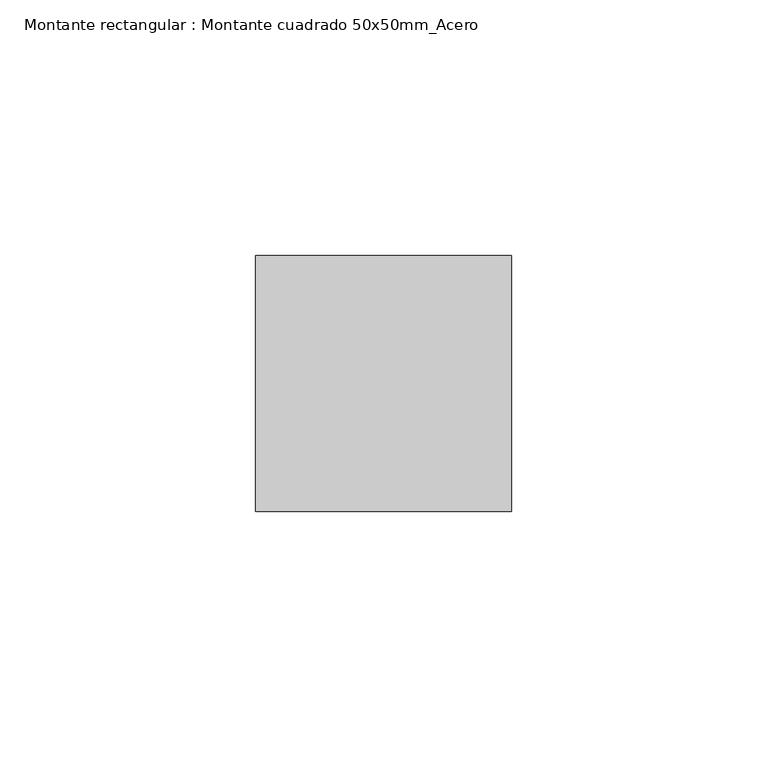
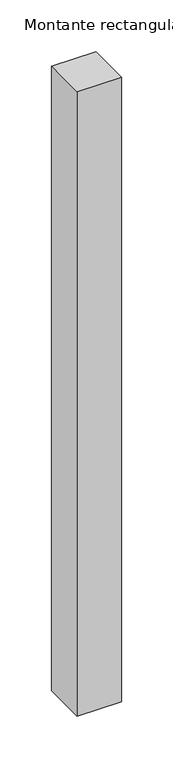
"""IFC4 building model written with IfcOpenShell, lengths in millimetres: member geometry, Montante rectangular : Montante cuadrado 50x50mm_Acero."""

from ifc_helpers import new_model, si_unit, frame, origin, place, context, project, spatial, polyline, outline, extrude, source, transform, mapped, element, save


def montante_rectangular_montante_cuadrado_50x50mm_acero_9b62e82a(model_context):
    return source(origin(), model_context, "Body", "SweptSolid", [
        extrude(outline(polyline([(0.0, 0.0), (0.0, -50.0), (-50.0, -50.0), (-50.0, 0.0), (0.0, 0.0)])), frame((0.0, 0.0, -740.0), z_axis=(0.0, 0.0, 1.0), x_axis=(1.0, 0.0, 0.0)), (0.0, 0.0, 1.0), 740.0),
    ])


if __name__ == "__main__":
    model = new_model("IFC4")
    model_context = context("Model", 3, world=origin())
    ifc_project = project(units=[si_unit("LENGTHUNIT", "METRE", prefix="MILLI")], contexts=[model_context])
    site = spatial("IfcSite", under=ifc_project)
    building = spatial("IfcBuilding", under=site)
    placement = place(None, origin())
    montante_rectangular_montante_cuadrado_50x50mm_acero_shape = montante_rectangular_montante_cuadrado_50x50mm_acero_9b62e82a(model_context)
    element("IfcMember", 1, ObjectType="Montante rectangular : Montante cuadrado 50x50mm_Acero", at=placement, inside=building, context=model_context, shape_type="MappedRepresentation", body=[
        mapped(montante_rectangular_montante_cuadrado_50x50mm_acero_shape, transform((0.0, 0.0, 0.0), x_axis=(1.0, 0.0, 0.0), y_axis=(0.0, 1.0, 0.0), z_axis=(0.0, 0.0, 1.0))),
    ])
    save(model, "model.ifc")
